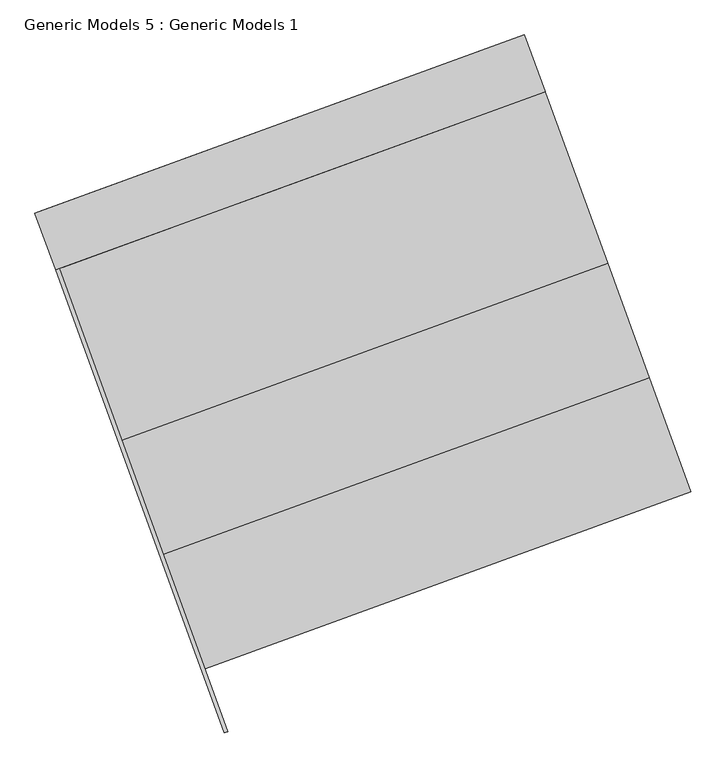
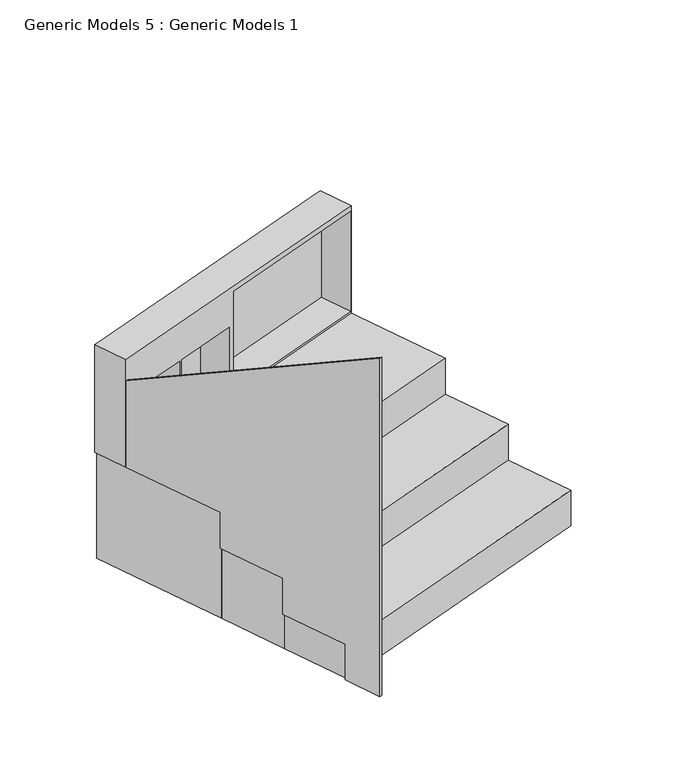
"""IFC4 building model written with IfcOpenShell, lengths in millimetres: proxy geometry, Generic Models 5 : Generic Models 1."""

from ifc_helpers import new_model, si_unit, frame, origin, place, context, project, spatial, polyline, outline, extrude, faceted_brep, source, transform, mapped, element, save


def generic_models_5_generic_models_1_434a3085(model_context):
    return source(origin(), model_context, "Body", "SolidModel", [
        extrude(outline(polyline([(0.0, 0.0), (0.0, -3029.9999968), (-2432.5933356, -1732.6168845), (-2432.5933356, -960.0), (-1530.6825137, -960.0), (-1530.6825137, -640.0), (-930.6825137, -640.0), (-930.6825137, -320.0), (-330.6825137, -320.0), (-330.6825137, 0.0), (0.0, 0.0)])), frame((35503.1596855, 9400.4036481, 2500.0), z_axis=(0.9396926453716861, 0.3420200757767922, 0.0), x_axis=(0.3420200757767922, -0.9396926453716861, 0.0)), (0.0, 0.0, 1.0), 20.0),
        faceted_brep([(37087.0155294, 12565.5915912, 3460.0), (36985.0624729, 12845.7053744, 3460.0), (36985.0624729, 12845.7053744, 4420.0), (37087.0155294, 12565.5915912, 4420.0), (34671.1639285, 11686.2937147, 3460.0), (34671.1639285, 11686.2937147, 4420.0), (34569.210872, 11966.4074979, 4420.0), (34569.210872, 11966.4074979, 3460.0), (35249.0749032, 11896.6360605, 4080.0), (35249.0749032, 11896.6360605, 3480.0), (34708.7516321, 11699.974517, 3480.0), (34708.7516321, 11699.974517, 4080.0), (35781.0817095, 12090.2706592, 3480.0), (35267.8687561, 11903.476462, 3480.0), (35267.8687561, 11903.476462, 4080.0), (35781.0817095, 12090.2706592, 4080.0), (37080.251002, 12563.1295051, 4374.8686957), (37080.251002, 12563.1295051, 3480.0), (35826.9858801, 12106.9784071, 3480.0), (35826.9858801, 12106.9784071, 4374.8686957), (35153.3093335, 12159.7498009, 4080.0), (34612.9860766, 11963.0882184, 4080.0), (34612.9860766, 11963.0882184, 3480.0), (35153.3093335, 12159.7498009, 3480.0), (35685.3161259, 12353.3844377, 4080.0), (35172.1031859, 12166.5902037, 4080.0), (35172.1031859, 12166.5902037, 3480.0), (35685.3161259, 12353.3844377, 3480.0), (36984.4853844, 12826.2433771, 4374.8686957), (35731.2202953, 12370.092189, 4374.8686957), (35731.2202953, 12370.092189, 3480.0), (36984.4853844, 12826.2433771, 3480.0)], [[[0, 1, 2, 3]], [[4, 5, 6, 7]], [[1, 0, 4, 7]], [[2, 1, 7, 6]], [[3, 2, 6, 5]], [[0, 3, 5, 4], [8, 9, 10, 11], [12, 13, 14, 15], [16, 17, 18, 19]], [[20, 21, 22, 23]], [[24, 25, 26, 27]], [[28, 29, 30, 31]], [[20, 23, 9, 8]], [[23, 22, 10, 9]], [[22, 21, 11, 10]], [[21, 20, 8, 11]], [[27, 26, 13, 12]], [[26, 25, 14, 13]], [[25, 24, 15, 14]], [[24, 27, 12, 15]], [[28, 31, 17, 16]], [[31, 30, 18, 17]], [[30, 29, 19, 18]], [[29, 28, 16, 19]]]),
        extrude(outline(polyline([(35408.8534998, 9717.9839844), (35203.6414138, 10281.7995569), (37600.699089, 11154.2572005), (37805.911175, 10590.441628), (35408.8534998, 9717.9839844)])), frame((0.0, 0.0, 2500.0), z_axis=(0.0, 0.0, 1.0), x_axis=(1.0, 0.0, 0.0)), (0.0, 0.0, 1.0), 320.0),
        extrude(outline(polyline([(35203.6414138, 10281.7995569), (34998.4293278, 10845.6151294), (37395.4870097, 11718.0727754), (37600.6990957, 11154.2572029), (35203.6414138, 10281.7995569)])), frame((0.0, 0.0, 2500.0), z_axis=(0.0, 0.0, 1.0), x_axis=(1.0, 0.0, 0.0)), (0.0, 0.0, 1.0), 640.0),
        extrude(outline(polyline([(34998.4293278, 10845.6151294), (34588.0051552, 11973.2462759), (36985.0629723, 12845.7039711), (37395.4871448, 11718.0728246), (34998.4293278, 10845.6151294)])), frame((0.0, 0.0, 2500.0), z_axis=(0.0, 0.0, 1.0), x_axis=(1.0, 0.0, 0.0)), (0.0, 0.0, 1.0), 960.0),
    ])


if __name__ == "__main__":
    model = new_model("IFC4")
    model_context = context("Model", 3, world=origin())
    ifc_project = project(units=[si_unit("LENGTHUNIT", "METRE", prefix="MILLI")], contexts=[model_context])
    site = spatial("IfcSite", under=ifc_project)
    building = spatial("IfcBuilding", under=site)
    placement = place(None, origin())
    generic_models_5_generic_models_1_shape = generic_models_5_generic_models_1_434a3085(model_context)
    element("IfcBuildingElementProxy", 1, Name="Generic Models 5 : Generic Models 1", ObjectType="Generic Models 5 : Generic Models 1", at=placement, inside=building, context=model_context, shape_type="MappedRepresentation", body=[
        mapped(generic_models_5_generic_models_1_shape, transform((0.0, 0.0, 0.0), x_axis=(1.0, 0.0, 0.0), y_axis=(0.0, 1.0, 0.0), z_axis=(0.0, 0.0, 1.0))),
    ])
    save(model, "model.ifc")
